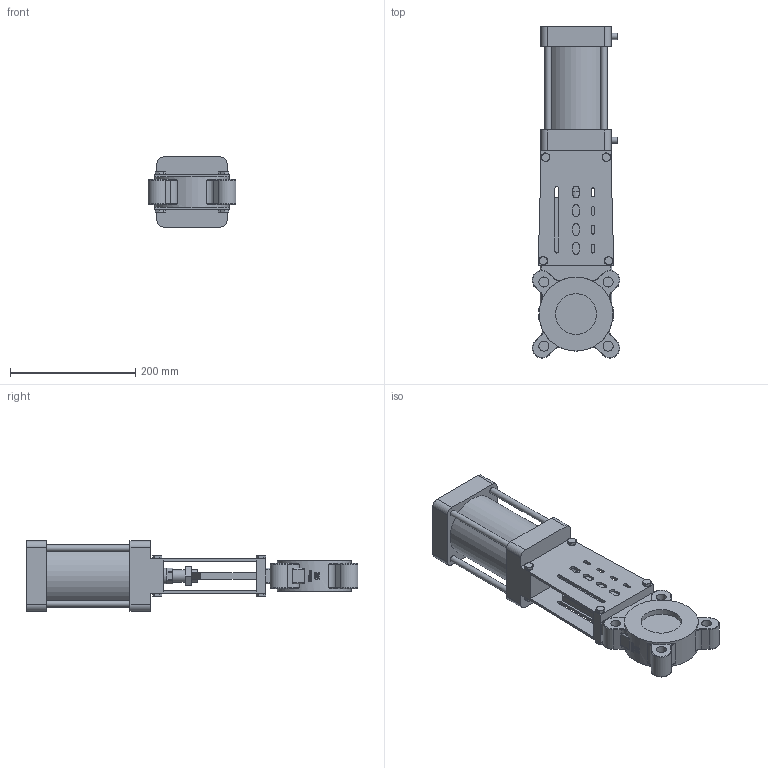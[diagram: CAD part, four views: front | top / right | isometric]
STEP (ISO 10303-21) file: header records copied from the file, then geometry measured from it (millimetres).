
FILE_DESCRIPTION(('STEP AP242'), '1');
FILE_NAME('GVKR1331M-1W-Fb-2P Çàäâèæêà øèáåðíàÿ ñ âûäâèæíûì øòîêîì DN.ru Äó65 Ðó16', '2026-05-25T19:47:21', ('R2D2'), (''), 'C3D Converter', 'C3D Toolkit', '');
FILE_SCHEMA(('AP242_MANAGED_MODEL_BASED_3D_ENGINEERING_MIM_LF { 1 0 10303 442 1 1 4 }'));
Length unit declared in the file: millimetre
Products named in the file (1): GVKR1331M-1W-Fb-2P
Bounding box: 140.07 x 530.03 x 112 mm (x, y, z)
Volume: 3022886.2 mm3; surface area: 302212.5 mm2
Topology: 1 solids, 1 shells, 675 faces, 1734 edges, 1108 vertices
Faces by surface type: plane 332, extrusion 136, cylinder 135, cone 48, torus 24
Full cylindrical faces by diameter (mm): 10 x6, 13 x8, 16 x8, 19.8 x2, 20 x1, 25 x1, 65 x2, 100 x1, 118 x1
Entity records: 35569 total; most frequent: CARTESIAN_POINT 14194, ORIENTED_EDGE 3406, DIRECTION 2925, EDGE_CURVE 1703, VERTEX_POINT 1108, AXIS2_PLACEMENT_3D 980, VECTOR 965, LINE 829
